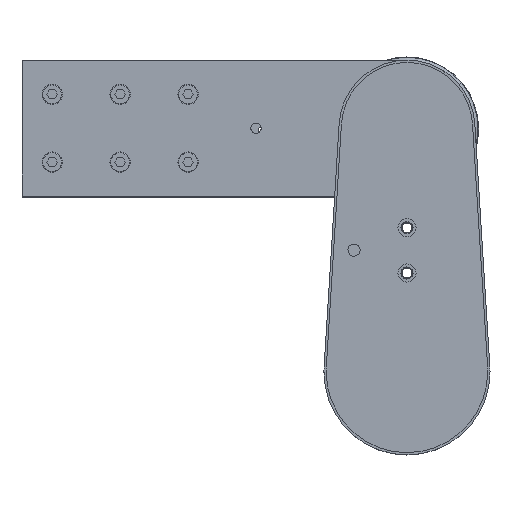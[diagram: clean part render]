
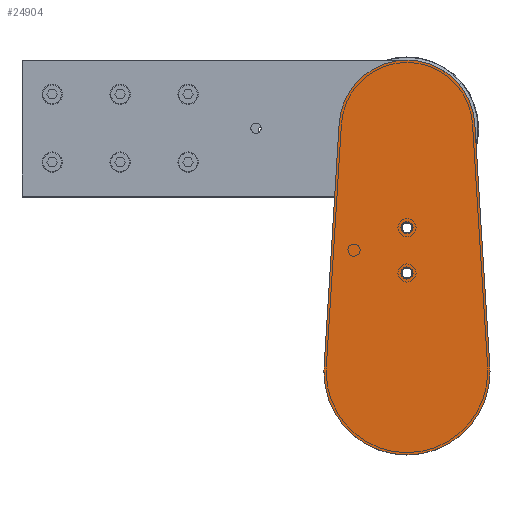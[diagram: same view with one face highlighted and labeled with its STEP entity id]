
A CAD part, top view. The second image highlights one B-rep face of the part: STEP entity #24904.
In plain terms, the highlighted planar face has unit normal (0, 0, 1) as drawn and (0, 0, -1) by its records, which use the part's own axes.
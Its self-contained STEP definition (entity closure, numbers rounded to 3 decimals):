
#7275 = EDGE_CURVE ( 'NONE', #72810, #72811, #62389, .T. ) ;
#7279 = EDGE_CURVE ( 'NONE', #72814, #72815, #62394, .T. ) ;
#7292 = EDGE_CURVE ( 'NONE', #72830, #72831, #75872, .T. ) ;
#7296 = EDGE_CURVE ( 'NONE', #72833, #72830, #75879, .T. ) ;
#7305 = EDGE_CURVE ( 'NONE', #72835, #72834, #75897, .T. ) ;
#7309 = EDGE_CURVE ( 'NONE', #72834, #72836, #75355, .T. ) ;
#7313 = EDGE_CURVE ( 'NONE', #72836, #72833, #75908, .T. ) ;
#7314 = EDGE_CURVE ( 'NONE', #72831, #72835, #75363, .T. ) ;
#7316 = EDGE_CURVE ( 'NONE', #72811, #72810, #75913, .T. ) ;
#7317 = EDGE_CURVE ( 'NONE', #72815, #72814, #75914, .T. ) ;
#8582 = EDGE_LOOP ( 'NONE', ( #13212, #13213 ) ) ;
#8593 = EDGE_LOOP ( 'NONE', ( #13216, #13217, #13218, #13219, #13220, #13221 ) ) ;
#8595 = EDGE_LOOP ( 'NONE', ( #13214, #13215 ) ) ;
#13212 = ORIENTED_EDGE ( 'NONE', *, *, #7275, .F. ) ;
#13213 = ORIENTED_EDGE ( 'NONE', *, *, #7316, .F. ) ;
#13214 = ORIENTED_EDGE ( 'NONE', *, *, #7279, .F. ) ;
#13215 = ORIENTED_EDGE ( 'NONE', *, *, #7317, .F. ) ;
#13216 = ORIENTED_EDGE ( 'NONE', *, *, #7305, .F. ) ;
#13217 = ORIENTED_EDGE ( 'NONE', *, *, #7314, .F. ) ;
#13218 = ORIENTED_EDGE ( 'NONE', *, *, #7292, .F. ) ;
#13219 = ORIENTED_EDGE ( 'NONE', *, *, #7296, .F. ) ;
#13220 = ORIENTED_EDGE ( 'NONE', *, *, #7313, .F. ) ;
#13221 = ORIENTED_EDGE ( 'NONE', *, *, #7309, .F. ) ;
#24904 = ADVANCED_FACE ( 'NONE', ( #43487, #43483, #43489 ), #43490, .F. ) ;
#43482 = DIRECTION ( 'NONE',  ( 0., 0., 1. ) ) ;
#43483 = FACE_BOUND ( 'NONE', #8595, .T. ) ;
#43486 = CARTESIAN_POINT ( 'NONE',  ( 0., 161.5, 0. ) ) ;
#43487 = FACE_BOUND ( 'NONE', #8582, .T. ) ;
#43489 = FACE_OUTER_BOUND ( 'NONE', #8593, .T. ) ;
#43490 = PLANE ( 'NONE',  #44279 ) ;
#43492 = DIRECTION ( 'NONE',  ( 1., 0., 0. ) ) ;
#44279 = AXIS2_PLACEMENT_3D ( 'NONE', #43486, #43482, #43492 ) ;
#62389 = CIRCLE ( 'NONE', #62395, 3.5 ) ;
#62394 = CIRCLE ( 'NONE', #62401, 3.5 ) ;
#62395 = AXIS2_PLACEMENT_3D ( 'NONE', #75256, #75257, #75258 ) ;
#62401 = AXIS2_PLACEMENT_3D ( 'NONE', #75268, #75269, #75270 ) ;
#66867 = CARTESIAN_POINT ( 'NONE',  ( 3.5, 95.5, 0. ) ) ;
#66868 = CARTESIAN_POINT ( 'NONE',  ( -3.5, 95.5, 0. ) ) ;
#66871 = CARTESIAN_POINT ( 'NONE',  ( 3.5, 65.5, 0. ) ) ;
#66872 = CARTESIAN_POINT ( 'NONE',  ( -3.5, 65.5, 0. ) ) ;
#66887 = CARTESIAN_POINT ( 'NONE',  ( 55., 0., 0. ) ) ;
#66888 = CARTESIAN_POINT ( 'NONE',  ( 54.894, 3.406, 0. ) ) ;
#66890 = CARTESIAN_POINT ( 'NONE',  ( -55., 0., 0. ) ) ;
#66891 = CARTESIAN_POINT ( 'NONE',  ( -44.914, 164.286, 0. ) ) ;
#66892 = CARTESIAN_POINT ( 'NONE',  ( 44.914, 164.286, 0. ) ) ;
#66893 = CARTESIAN_POINT ( 'NONE',  ( -54.894, 3.406, 0. ) ) ;
#72810 = VERTEX_POINT ( 'NONE', #66867 ) ;
#72811 = VERTEX_POINT ( 'NONE', #66868 ) ;
#72814 = VERTEX_POINT ( 'NONE', #66871 ) ;
#72815 = VERTEX_POINT ( 'NONE', #66872 ) ;
#72830 = VERTEX_POINT ( 'NONE', #66887 ) ;
#72831 = VERTEX_POINT ( 'NONE', #66888 ) ;
#72833 = VERTEX_POINT ( 'NONE', #66890 ) ;
#72834 = VERTEX_POINT ( 'NONE', #66891 ) ;
#72835 = VERTEX_POINT ( 'NONE', #66892 ) ;
#72836 = VERTEX_POINT ( 'NONE', #66893 ) ;
#75256 = CARTESIAN_POINT ( 'NONE',  ( 0., 95.5, 0. ) ) ;
#75257 = DIRECTION ( 'NONE',  ( 0., 0., -1. ) ) ;
#75258 = DIRECTION ( 'NONE',  ( 1., 0., 0. ) ) ;
#75268 = CARTESIAN_POINT ( 'NONE',  ( 0., 65.5, 0. ) ) ;
#75269 = DIRECTION ( 'NONE',  ( 0., 0., -1. ) ) ;
#75270 = DIRECTION ( 'NONE',  ( 1., 0., 0. ) ) ;
#75306 = CARTESIAN_POINT ( 'NONE',  ( 0., 0., 0. ) ) ;
#75307 = DIRECTION ( 'NONE',  ( 0., 0., 1. ) ) ;
#75308 = DIRECTION ( 'NONE',  ( 1., 0., 0. ) ) ;
#75317 = CARTESIAN_POINT ( 'NONE',  ( 0., 0., 0. ) ) ;
#75318 = DIRECTION ( 'NONE',  ( 0., 0., 1. ) ) ;
#75319 = DIRECTION ( 'NONE',  ( 1., 0., 0. ) ) ;
#75345 = CARTESIAN_POINT ( 'NONE',  ( 0., 161.5, 0. ) ) ;
#75346 = DIRECTION ( 'NONE',  ( 0., 0., 1. ) ) ;
#75347 = DIRECTION ( 'NONE',  ( 1., 0., 0. ) ) ;
#75355 = LINE ( 'NONE', #75356, #75904 ) ;
#75356 = CARTESIAN_POINT ( 'NONE',  ( -44.914, 164.286, 0. ) ) ;
#75357 = DIRECTION ( 'NONE',  ( -0.062, -0.998, 0. ) ) ;
#75363 = LINE ( 'NONE', #75364, #75910 ) ;
#75364 = CARTESIAN_POINT ( 'NONE',  ( 44.914, 164.286, 0. ) ) ;
#75368 = CARTESIAN_POINT ( 'NONE',  ( 0., 0., 0. ) ) ;
#75369 = DIRECTION ( 'NONE',  ( 0., 0., 1. ) ) ;
#75370 = DIRECTION ( 'NONE',  ( 1., 0., 0. ) ) ;
#75371 = DIRECTION ( 'NONE',  ( -0.062, 0.998, 0. ) ) ;
#75377 = CARTESIAN_POINT ( 'NONE',  ( 0., 95.5, 0. ) ) ;
#75378 = DIRECTION ( 'NONE',  ( 0., 0., -1. ) ) ;
#75379 = DIRECTION ( 'NONE',  ( 1., 0., 0. ) ) ;
#75381 = CARTESIAN_POINT ( 'NONE',  ( 0., 65.5, 0. ) ) ;
#75382 = DIRECTION ( 'NONE',  ( 0., 0., -1. ) ) ;
#75383 = DIRECTION ( 'NONE',  ( 1., 0., 0. ) ) ;
#75872 = CIRCLE ( 'NONE', #75878, 55. ) ;
#75878 = AXIS2_PLACEMENT_3D ( 'NONE', #75306, #75307, #75308 ) ;
#75879 = CIRCLE ( 'NONE', #75884, 55. ) ;
#75884 = AXIS2_PLACEMENT_3D ( 'NONE', #75317, #75318, #75319 ) ;
#75897 = CIRCLE ( 'NONE', #75900, 45. ) ;
#75900 = AXIS2_PLACEMENT_3D ( 'NONE', #75345, #75346, #75347 ) ;
#75904 = VECTOR ( 'NONE', #75357, 1000. ) ;
#75908 = CIRCLE ( 'NONE', #75911, 55. ) ;
#75910 = VECTOR ( 'NONE', #75371, 1000. ) ;
#75911 = AXIS2_PLACEMENT_3D ( 'NONE', #75368, #75369, #75370 ) ;
#75913 = CIRCLE ( 'NONE', #75915, 3.5 ) ;
#75914 = CIRCLE ( 'NONE', #75917, 3.5 ) ;
#75915 = AXIS2_PLACEMENT_3D ( 'NONE', #75377, #75378, #75379 ) ;
#75917 = AXIS2_PLACEMENT_3D ( 'NONE', #75381, #75382, #75383 ) ;
